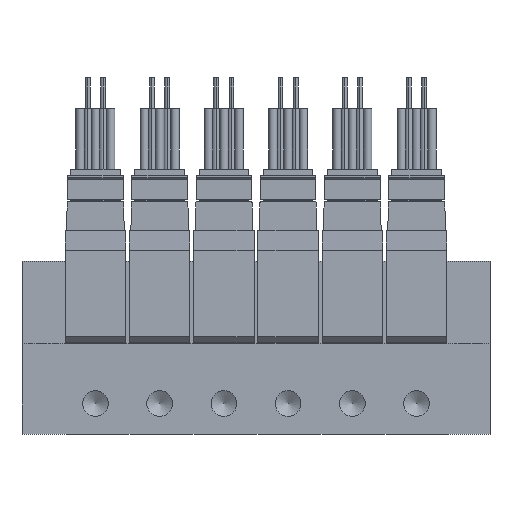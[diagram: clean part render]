
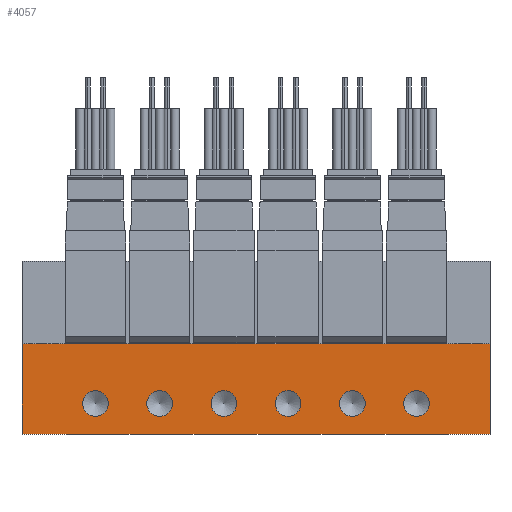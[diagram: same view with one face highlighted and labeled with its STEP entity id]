
A CAD part, front view. The second image highlights one B-rep face of the part: STEP entity #4057.
In plain terms, the highlighted planar face has unit normal (0, -1, 0).
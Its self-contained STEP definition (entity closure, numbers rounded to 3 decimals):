
#4057=ADVANCED_FACE('',(#6534,#6535,#6536,#6537,#6538,#6539,#6540),#6541,.F.);
#6534=FACE_BOUND('',#11616,.T.);
#6535=FACE_BOUND('',#11617,.T.);
#6536=FACE_BOUND('',#11618,.T.);
#6537=FACE_BOUND('',#11619,.T.);
#6538=FACE_BOUND('',#11620,.T.);
#6539=FACE_BOUND('',#11621,.T.);
#6540=FACE_OUTER_BOUND('',#11622,.T.);
#6541=PLANE('',#11623);
#11616=EDGE_LOOP('',(#18101));
#11617=EDGE_LOOP('',(#18102));
#11618=EDGE_LOOP('',(#18103));
#11619=EDGE_LOOP('',(#18104));
#11620=EDGE_LOOP('',(#18105));
#11621=EDGE_LOOP('',(#18106));
#11622=EDGE_LOOP('',(#18107,#18108,#18109,#18110));
#11623=AXIS2_PLACEMENT_3D('',#18111,#18112,#18113);
#18101=ORIENTED_EDGE('',*,*,#37386,.F.);
#18102=ORIENTED_EDGE('',*,*,#37387,.F.);
#18103=ORIENTED_EDGE('',*,*,#37388,.F.);
#18104=ORIENTED_EDGE('',*,*,#37389,.F.);
#18105=ORIENTED_EDGE('',*,*,#37390,.F.);
#18106=ORIENTED_EDGE('',*,*,#37391,.F.);
#18107=ORIENTED_EDGE('',*,*,#37381,.F.);
#18108=ORIENTED_EDGE('',*,*,#37392,.F.);
#18109=ORIENTED_EDGE('',*,*,#37348,.T.);
#18110=ORIENTED_EDGE('',*,*,#37385,.T.);
#18111=CARTESIAN_POINT('',(-76.5,0.,14.8));
#18112=DIRECTION('',(0.0,1.0,0.));
#18113=DIRECTION('',(0.0,0.,1.0));
#37348=EDGE_CURVE('',#43644,#43642,#43645,.T.);
#37381=EDGE_CURVE('',#43703,#43705,#43706,.T.);
#37385=EDGE_CURVE('',#43642,#43705,#43712,.T.);
#37386=EDGE_CURVE('',#43713,#43713,#43714,.T.);
#37387=EDGE_CURVE('',#43715,#43715,#43716,.T.);
#37388=EDGE_CURVE('',#43717,#43717,#43718,.T.);
#37389=EDGE_CURVE('',#43719,#43719,#43720,.T.);
#37390=EDGE_CURVE('',#43721,#43721,#43722,.T.);
#37391=EDGE_CURVE('',#43723,#43723,#43724,.T.);
#37392=EDGE_CURVE('',#43644,#43703,#43725,.T.);
#43642=VERTEX_POINT('',#54274);
#43644=VERTEX_POINT('',#54277);
#43645=LINE('',#54278,#54279);
#43703=VERTEX_POINT('',#54352);
#43705=VERTEX_POINT('',#54355);
#43706=LINE('',#54356,#54357);
#43712=LINE('',#54364,#54365);
#43713=VERTEX_POINT('',#54366);
#43714=CIRCLE('',#54367,2.1);
#43715=VERTEX_POINT('',#54368);
#43716=CIRCLE('',#54369,2.1);
#43717=VERTEX_POINT('',#54370);
#43718=CIRCLE('',#54371,2.1);
#43719=VERTEX_POINT('',#54372);
#43720=CIRCLE('',#54373,2.1);
#43721=VERTEX_POINT('',#54374);
#43722=CIRCLE('',#54375,2.1);
#43723=VERTEX_POINT('',#54376);
#43724=CIRCLE('',#54377,2.1);
#43725=LINE('',#54378,#54379);
#54274=CARTESIAN_POINT('',(-76.5,0.0,0.0));
#54277=CARTESIAN_POINT('',(-76.5,0.,14.8));
#54278=CARTESIAN_POINT('',(-76.5,0.,14.8));
#54279=VECTOR('',#69467,1.0);
#54352=CARTESIAN_POINT('',(0.0,0.,14.8));
#54355=CARTESIAN_POINT('',(0.0,0.0,0.0));
#54356=CARTESIAN_POINT('',(0.0,0.,14.8));
#54357=VECTOR('',#69532,1.0);
#54364=CARTESIAN_POINT('',(-76.5,0.0,0.0));
#54365=VECTOR('',#69540,1.0);
#54366=CARTESIAN_POINT('',(-64.5,0.,2.9));
#54367=AXIS2_PLACEMENT_3D('',#69541,#69542,#69543);
#54368=CARTESIAN_POINT('',(-54.0,0.,2.9));
#54369=AXIS2_PLACEMENT_3D('',#69544,#69545,#69546);
#54370=CARTESIAN_POINT('',(-43.5,0.,2.9));
#54371=AXIS2_PLACEMENT_3D('',#69547,#69548,#69549);
#54372=CARTESIAN_POINT('',(-33.0,0.,2.9));
#54373=AXIS2_PLACEMENT_3D('',#69550,#69551,#69552);
#54374=CARTESIAN_POINT('',(-22.5,0.,2.9));
#54375=AXIS2_PLACEMENT_3D('',#69553,#69554,#69555);
#54376=CARTESIAN_POINT('',(-12.0,0.,2.9));
#54377=AXIS2_PLACEMENT_3D('',#69556,#69557,#69558);
#54378=CARTESIAN_POINT('',(-76.5,0.,14.8));
#54379=VECTOR('',#69559,1.0);
#69467=DIRECTION('',(0.0,0.,-1.0));
#69532=DIRECTION('',(0.0,0.,-1.0));
#69540=DIRECTION('',(1.0,0.0,0.0));
#69541=CARTESIAN_POINT('',(-64.5,0.0,5.0));
#69542=DIRECTION('',(0.0,-1.0,0.));
#69543=DIRECTION('',(0.0,0.,-1.0));
#69544=CARTESIAN_POINT('',(-54.0,0.0,5.0));
#69545=DIRECTION('',(0.0,-1.0,0.));
#69546=DIRECTION('',(0.0,0.,-1.0));
#69547=CARTESIAN_POINT('',(-43.5,0.0,5.0));
#69548=DIRECTION('',(0.0,-1.0,0.));
#69549=DIRECTION('',(0.0,0.,-1.0));
#69550=CARTESIAN_POINT('',(-33.0,0.0,5.0));
#69551=DIRECTION('',(0.0,-1.0,0.));
#69552=DIRECTION('',(0.0,0.,-1.0));
#69553=CARTESIAN_POINT('',(-22.5,0.0,5.0));
#69554=DIRECTION('',(0.0,-1.0,0.));
#69555=DIRECTION('',(0.0,0.,-1.0));
#69556=CARTESIAN_POINT('',(-12.0,0.0,5.0));
#69557=DIRECTION('',(0.0,-1.0,0.));
#69558=DIRECTION('',(0.0,0.,-1.0));
#69559=DIRECTION('',(1.0,0.0,0.0));
